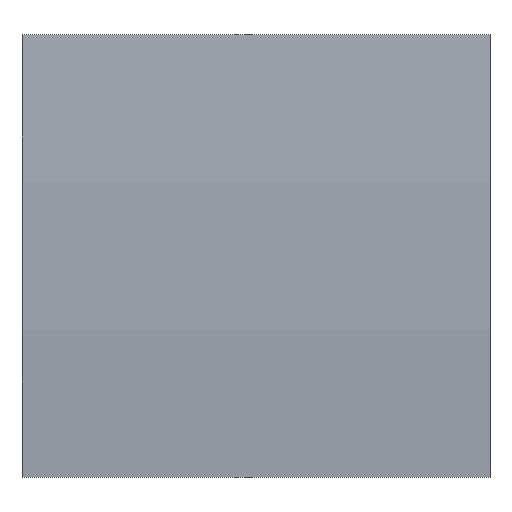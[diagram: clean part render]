
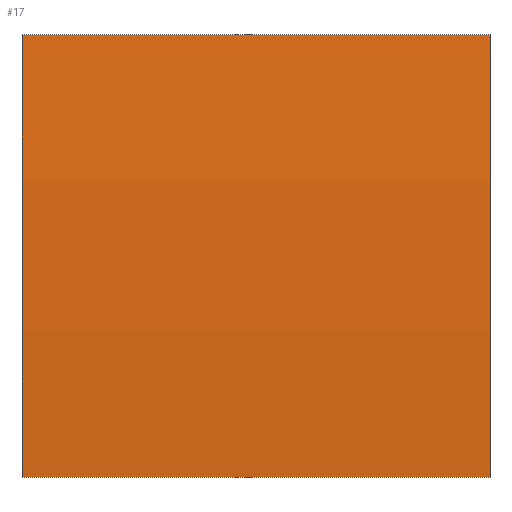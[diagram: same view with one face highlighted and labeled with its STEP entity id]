
A CAD part, top view. The second image highlights one B-rep face of the part: STEP entity #17.
In plain terms, the highlighted cylindrical face has radius 51 mm (diameter 102 mm), a partial arc.
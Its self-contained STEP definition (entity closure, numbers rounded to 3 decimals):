
#17 = ADVANCED_FACE('',(#18),#32,.T.);
#18 = FACE_BOUND('',#19,.T.);
#19 = EDGE_LOOP('',(#20,#55,#84,#112));
#20 = ORIENTED_EDGE('',*,*,#21,.T.);
#21 = EDGE_CURVE('',#22,#24,#26,.T.);
#22 = VERTEX_POINT('',#23);
#23 = CARTESIAN_POINT('',(86.,-4.445,50.806));
#24 = VERTEX_POINT('',#25);
#25 = CARTESIAN_POINT('',(95.4,-4.445,50.806));
#26 = SURFACE_CURVE('',#27,(#31,#43),.PCURVE_S1.);
#27 = LINE('',#28,#29);
#28 = CARTESIAN_POINT('',(86.,-4.445,50.806));
#29 = VECTOR('',#30,1.);
#30 = DIRECTION('',(1.,0.,0.));
#31 = PCURVE('',#32,#37);
#32 = CYLINDRICAL_SURFACE('',#33,51.);
#33 = AXIS2_PLACEMENT_3D('',#34,#35,#36);
#34 = CARTESIAN_POINT('',(86.,0.,0.));
#35 = DIRECTION('',(-1.,0.,0.));
#36 = DIRECTION('',(0.,-0.087,0.996));
#37 = DEFINITIONAL_REPRESENTATION('',(#38),#42);
#38 = LINE('',#39,#40);
#39 = CARTESIAN_POINT('',(0.,0.));
#40 = VECTOR('',#41,1.);
#41 = DIRECTION('',(0.,-1.));
#42 = ( GEOMETRIC_REPRESENTATION_CONTEXT(2) 
PARAMETRIC_REPRESENTATION_CONTEXT() REPRESENTATION_CONTEXT('2D SPACE',''
  ) );
#43 = PCURVE('',#44,#49);
#44 = PLANE('',#45);
#45 = AXIS2_PLACEMENT_3D('',#46,#47,#48);
#46 = CARTESIAN_POINT('',(86.,-3.225,36.859));
#47 = DIRECTION('',(0.,-0.996,-0.087));
#48 = DIRECTION('',(0.,-0.087,0.996));
#49 = DEFINITIONAL_REPRESENTATION('',(#50),#54);
#50 = LINE('',#51,#52);
#51 = CARTESIAN_POINT('',(14.,0.));
#52 = VECTOR('',#53,1.);
#53 = DIRECTION('',(0.,-1.));
#54 = ( GEOMETRIC_REPRESENTATION_CONTEXT(2) 
PARAMETRIC_REPRESENTATION_CONTEXT() REPRESENTATION_CONTEXT('2D SPACE',''
  ) );
#55 = ORIENTED_EDGE('',*,*,#56,.T.);
#56 = EDGE_CURVE('',#24,#57,#59,.T.);
#57 = VERTEX_POINT('',#58);
#58 = CARTESIAN_POINT('',(95.4,4.445,50.806));
#59 = SURFACE_CURVE('',#60,(#65,#72),.PCURVE_S1.);
#60 = CIRCLE('',#61,51.);
#61 = AXIS2_PLACEMENT_3D('',#62,#63,#64);
#62 = CARTESIAN_POINT('',(95.4,0.,0.)
  );
#63 = DIRECTION('',(-1.,0.,0.));
#64 = DIRECTION('',(0.,-0.087,0.996));
#65 = PCURVE('',#32,#66);
#66 = DEFINITIONAL_REPRESENTATION('',(#67),#71);
#67 = LINE('',#68,#69);
#68 = CARTESIAN_POINT('',(0.,-9.4));
#69 = VECTOR('',#70,1.);
#70 = DIRECTION('',(1.,0.));
#71 = ( GEOMETRIC_REPRESENTATION_CONTEXT(2) 
PARAMETRIC_REPRESENTATION_CONTEXT() REPRESENTATION_CONTEXT('2D SPACE',''
  ) );
#72 = PCURVE('',#73,#78);
#73 = PLANE('',#74);
#74 = AXIS2_PLACEMENT_3D('',#75,#76,#77);
#75 = CARTESIAN_POINT('',(95.4,0.,44.262));
#76 = DIRECTION('',(-1.,-0.,-0.));
#77 = DIRECTION('',(0.,0.,-1.));
#78 = DEFINITIONAL_REPRESENTATION('',(#79),#83);
#79 = CIRCLE('',#80,51.);
#80 = AXIS2_PLACEMENT_2D('',#81,#82);
#81 = CARTESIAN_POINT('',(44.262,0.));
#82 = DIRECTION('',(-0.996,0.087));
#83 = ( GEOMETRIC_REPRESENTATION_CONTEXT(2) 
PARAMETRIC_REPRESENTATION_CONTEXT() REPRESENTATION_CONTEXT('2D SPACE',''
  ) );
#84 = ORIENTED_EDGE('',*,*,#85,.F.);
#85 = EDGE_CURVE('',#86,#57,#88,.T.);
#86 = VERTEX_POINT('',#87);
#87 = CARTESIAN_POINT('',(86.,4.445,50.806));
#88 = SURFACE_CURVE('',#89,(#93,#100),.PCURVE_S1.);
#89 = LINE('',#90,#91);
#90 = CARTESIAN_POINT('',(86.,4.445,50.806));
#91 = VECTOR('',#92,1.);
#92 = DIRECTION('',(1.,0.,0.));
#93 = PCURVE('',#32,#94);
#94 = DEFINITIONAL_REPRESENTATION('',(#95),#99);
#95 = LINE('',#96,#97);
#96 = CARTESIAN_POINT('',(0.175,0.));
#97 = VECTOR('',#98,1.);
#98 = DIRECTION('',(0.,-1.));
#99 = ( GEOMETRIC_REPRESENTATION_CONTEXT(2) 
PARAMETRIC_REPRESENTATION_CONTEXT() REPRESENTATION_CONTEXT('2D SPACE',''
  ) );
#100 = PCURVE('',#101,#106);
#101 = PLANE('',#102);
#102 = AXIS2_PLACEMENT_3D('',#103,#104,#105);
#103 = CARTESIAN_POINT('',(86.,4.445,50.806));
#104 = DIRECTION('',(0.,0.996,-0.087));
#105 = DIRECTION('',(0.,-0.087,-0.996));
#106 = DEFINITIONAL_REPRESENTATION('',(#107),#111);
#107 = LINE('',#108,#109);
#108 = CARTESIAN_POINT('',(0.,0.));
#109 = VECTOR('',#110,1.);
#110 = DIRECTION('',(0.,-1.));
#111 = ( GEOMETRIC_REPRESENTATION_CONTEXT(2) 
PARAMETRIC_REPRESENTATION_CONTEXT() REPRESENTATION_CONTEXT('2D SPACE',''
  ) );
#112 = ORIENTED_EDGE('',*,*,#113,.F.);
#113 = EDGE_CURVE('',#22,#86,#114,.T.);
#114 = SURFACE_CURVE('',#115,(#120,#127),.PCURVE_S1.);
#115 = CIRCLE('',#116,51.);
#116 = AXIS2_PLACEMENT_3D('',#117,#118,#119);
#117 = CARTESIAN_POINT('',(86.,0.,0.)
  );
#118 = DIRECTION('',(-1.,0.,0.));
#119 = DIRECTION('',(0.,-0.087,0.996));
#120 = PCURVE('',#32,#121);
#121 = DEFINITIONAL_REPRESENTATION('',(#122),#126);
#122 = LINE('',#123,#124);
#123 = CARTESIAN_POINT('',(0.,0.));
#124 = VECTOR('',#125,1.);
#125 = DIRECTION('',(1.,0.));
#126 = ( GEOMETRIC_REPRESENTATION_CONTEXT(2) 
PARAMETRIC_REPRESENTATION_CONTEXT() REPRESENTATION_CONTEXT('2D SPACE',''
  ) );
#127 = PCURVE('',#128,#133);
#128 = PLANE('',#129);
#129 = AXIS2_PLACEMENT_3D('',#130,#131,#132);
#130 = CARTESIAN_POINT('',(86.,0.,44.262));
#131 = DIRECTION('',(-1.,-0.,-0.));
#132 = DIRECTION('',(0.,0.,-1.));
#133 = DEFINITIONAL_REPRESENTATION('',(#134),#138);
#134 = CIRCLE('',#135,51.);
#135 = AXIS2_PLACEMENT_2D('',#136,#137);
#136 = CARTESIAN_POINT('',(44.262,0.));
#137 = DIRECTION('',(-0.996,0.087));
#138 = ( GEOMETRIC_REPRESENTATION_CONTEXT(2) 
PARAMETRIC_REPRESENTATION_CONTEXT() REPRESENTATION_CONTEXT('2D SPACE',''
  ) );
